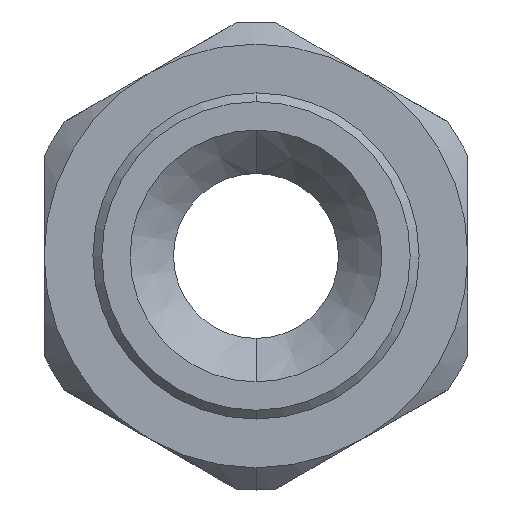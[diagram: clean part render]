
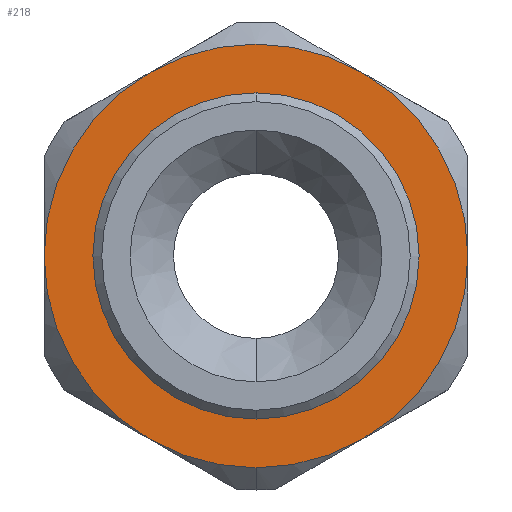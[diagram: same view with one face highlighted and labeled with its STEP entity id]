
A CAD part, front view. The second image highlights one B-rep face of the part: STEP entity #218.
In plain terms, the highlighted planar face has unit normal (0, -1, 0).
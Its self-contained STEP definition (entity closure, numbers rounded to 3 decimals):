
#21 = FACE_BOUND ( 'NONE', #1401, .T. ) ;
#23 = FACE_OUTER_BOUND ( 'NONE', #1402, .T. ) ;
#29 = AXIS2_PLACEMENT_3D ( 'NONE', #1895, #1896, #1897 ) ;
#91 = AXIS2_PLACEMENT_3D ( 'NONE', #2160, #2161, #2162 ) ;
#97 = AXIS2_PLACEMENT_3D ( 'NONE', #2163, #2164, #2165 ) ;
#113 = AXIS2_PLACEMENT_3D ( 'NONE', #2249, #2256, #2257 ) ;
#122 = AXIS2_PLACEMENT_3D ( 'NONE', #2157, #2158, #2159 ) ;
#142 = EDGE_CURVE ( 'NONE', #1101, #1102, #2401, .T. ) ;
#218 = ADVANCED_FACE ( 'NONE', ( #21, #23 ), #1894, .F. ) ;
#278 = EDGE_CURVE ( 'NONE', #1080, #1079, #2356, .T. ) ;
#279 = EDGE_CURVE ( 'NONE', #1124, #1123, #2355, .T. ) ;
#280 = EDGE_CURVE ( 'NONE', #1079, #1078, #2354, .T. ) ;
#305 = EDGE_CURVE ( 'NONE', #1123, #1124, #2346, .T. ) ;
#354 = AXIS2_PLACEMENT_3D ( 'NONE', #948, #949, #950 ) ;
#555 = AXIS2_PLACEMENT_3D ( 'NONE', #1646, #1647, #1648 ) ;
#771 = CARTESIAN_POINT ( 'NONE',  ( -5.975, 1., -10.349 ) ) ;
#772 = CARTESIAN_POINT ( 'NONE',  ( -11.95, 1., 0. ) ) ;
#773 = CARTESIAN_POINT ( 'NONE',  ( -5.975, 1., 10.349 ) ) ;
#774 = CARTESIAN_POINT ( 'NONE',  ( 5.975, 1., 10.349 ) ) ;
#775 = CARTESIAN_POINT ( 'NONE',  ( 11.95, 1., 0. ) ) ;
#796 = CARTESIAN_POINT ( 'NONE',  ( 0., 1., -11.95 ) ) ;
#797 = CARTESIAN_POINT ( 'NONE',  ( 5.975, 1., -10.349 ) ) ;
#807 = CARTESIAN_POINT ( 'NONE',  ( 0., 1., -9.2 ) ) ;
#808 = CARTESIAN_POINT ( 'NONE',  ( 0., 1., 9.2 ) ) ;
#828 = CARTESIAN_POINT ( 'NONE',  ( 0., 1., 0. ) ) ;
#829 = DIRECTION ( 'NONE',  ( 0., -1., 0. ) ) ;
#830 = DIRECTION ( 'NONE',  ( 0., 0., -1. ) ) ;
#948 = CARTESIAN_POINT ( 'NONE',  ( 0., 1., 0. ) ) ;
#949 = DIRECTION ( 'NONE',  ( 0., -1., 0. ) ) ;
#950 = DIRECTION ( 'NONE',  ( 0., 0., -1. ) ) ;
#951 = CARTESIAN_POINT ( 'NONE',  ( 0., 1., 0. ) ) ;
#952 = DIRECTION ( 'NONE',  ( 0., -1., 0. ) ) ;
#953 = DIRECTION ( 'NONE',  ( 0., 0., -1. ) ) ;
#954 = CARTESIAN_POINT ( 'NONE',  ( 0., 1., 0. ) ) ;
#955 = DIRECTION ( 'NONE',  ( 0., -1., 0. ) ) ;
#956 = DIRECTION ( 'NONE',  ( 0., 0., -1. ) ) ;
#1006 = AXIS2_PLACEMENT_3D ( 'NONE', #828, #829, #830 ) ;
#1026 = AXIS2_PLACEMENT_3D ( 'NONE', #954, #955, #956 ) ;
#1076 = VERTEX_POINT ( 'NONE', #771 ) ;
#1077 = VERTEX_POINT ( 'NONE', #772 ) ;
#1078 = VERTEX_POINT ( 'NONE', #773 ) ;
#1079 = VERTEX_POINT ( 'NONE', #774 ) ;
#1080 = VERTEX_POINT ( 'NONE', #775 ) ;
#1101 = VERTEX_POINT ( 'NONE', #796 ) ;
#1102 = VERTEX_POINT ( 'NONE', #797 ) ;
#1103 = AXIS2_PLACEMENT_3D ( 'NONE', #951, #952, #953 ) ;
#1123 = VERTEX_POINT ( 'NONE', #807 ) ;
#1124 = VERTEX_POINT ( 'NONE', #808 ) ;
#1363 = ORIENTED_EDGE ( 'NONE', *, *, #305, .F. ) ;
#1364 = ORIENTED_EDGE ( 'NONE', *, *, #279, .F. ) ;
#1365 = ORIENTED_EDGE ( 'NONE', *, *, #278, .T. ) ;
#1401 = EDGE_LOOP ( 'NONE', ( #1363, #1364 ) ) ;
#1402 = EDGE_LOOP ( 'NONE', ( #1365, #1556, #1555, #1557, #1558, #1559, #1560 ) ) ;
#1555 = ORIENTED_EDGE ( 'NONE', *, *, #2360, .T. ) ;
#1556 = ORIENTED_EDGE ( 'NONE', *, *, #280, .T. ) ;
#1557 = ORIENTED_EDGE ( 'NONE', *, *, #2446, .T. ) ;
#1558 = ORIENTED_EDGE ( 'NONE', *, *, #2445, .T. ) ;
#1559 = ORIENTED_EDGE ( 'NONE', *, *, #142, .T. ) ;
#1560 = ORIENTED_EDGE ( 'NONE', *, *, #2444, .T. ) ;
#1646 = CARTESIAN_POINT ( 'NONE',  ( 0., 1., 0. ) ) ;
#1647 = DIRECTION ( 'NONE',  ( 0., -1., 0. ) ) ;
#1648 = DIRECTION ( 'NONE',  ( 0., 0., -1. ) ) ;
#1894 = PLANE ( 'NONE',  #29 ) ;
#1895 = CARTESIAN_POINT ( 'NONE',  ( -13.2, 1., 0. ) ) ;
#1896 = DIRECTION ( 'NONE',  ( 0., 1., 0. ) ) ;
#1897 = DIRECTION ( 'NONE',  ( 0., 0., 1. ) ) ;
#2157 = CARTESIAN_POINT ( 'NONE',  ( 0., 1., 0. ) ) ;
#2158 = DIRECTION ( 'NONE',  ( 0., -1., 0. ) ) ;
#2159 = DIRECTION ( 'NONE',  ( 0., 0., -1. ) ) ;
#2160 = CARTESIAN_POINT ( 'NONE',  ( 0., 1., 0. ) ) ;
#2161 = DIRECTION ( 'NONE',  ( 0., -1., 0. ) ) ;
#2162 = DIRECTION ( 'NONE',  ( 0., 0., -1. ) ) ;
#2163 = CARTESIAN_POINT ( 'NONE',  ( 0., 1., 0. ) ) ;
#2164 = DIRECTION ( 'NONE',  ( 0., -1., 0. ) ) ;
#2165 = DIRECTION ( 'NONE',  ( 0., 0., -1. ) ) ;
#2249 = CARTESIAN_POINT ( 'NONE',  ( 0., 1., 0. ) ) ;
#2256 = DIRECTION ( 'NONE',  ( 0., -1., 0. ) ) ;
#2257 = DIRECTION ( 'NONE',  ( 0., 0., -1. ) ) ;
#2306 = CIRCLE ( 'NONE', #1026, 11.95 ) ;
#2307 = CIRCLE ( 'NONE', #1103, 11.95 ) ;
#2308 = CIRCLE ( 'NONE', #354, 11.95 ) ;
#2328 = CIRCLE ( 'NONE', #1006, 11.95 ) ;
#2346 = CIRCLE ( 'NONE', #113, 9.2 ) ;
#2354 = CIRCLE ( 'NONE', #97, 11.95 ) ;
#2355 = CIRCLE ( 'NONE', #91, 9.2 ) ;
#2356 = CIRCLE ( 'NONE', #122, 11.95 ) ;
#2360 = EDGE_CURVE ( 'NONE', #1078, #1077, #2328, .T. ) ;
#2401 = CIRCLE ( 'NONE', #555, 11.95 ) ;
#2444 = EDGE_CURVE ( 'NONE', #1102, #1080, #2308, .T. ) ;
#2445 = EDGE_CURVE ( 'NONE', #1076, #1101, #2307, .T. ) ;
#2446 = EDGE_CURVE ( 'NONE', #1077, #1076, #2306, .T. ) ;
